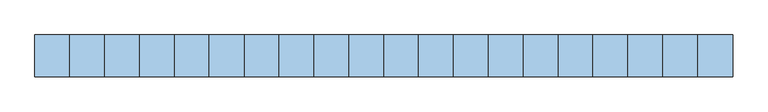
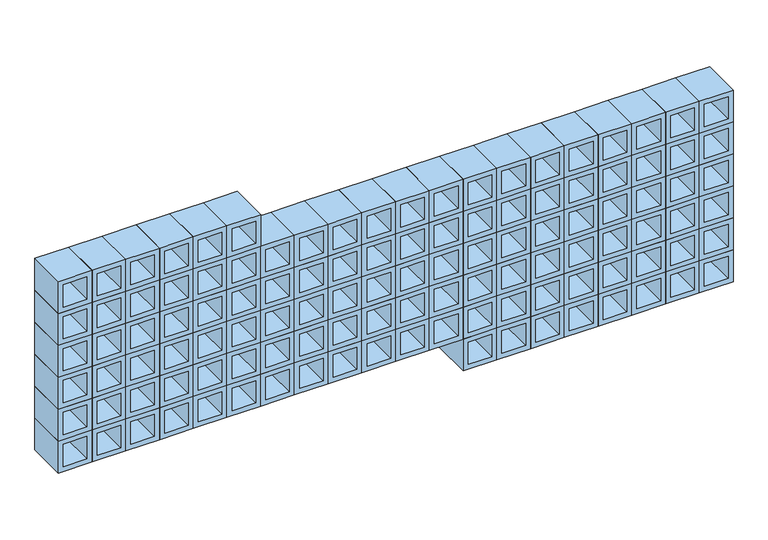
"""IFC4 building model written with IfcOpenShell, lengths in millimetres: window geometry, Concrete_Cobog_Hollow_block_14694 : Cobogó 2,00 x 1,60 m."""

from ifc_helpers import new_model, si_unit, frame, origin, place, context, project, spatial, polyline, outline, extrude, source, transform, mapped, element, save


def window_a88563cc(model_context):
    return source(origin(), model_context, "Body", "SweptSolid", [
        extrude(outline(polyline([(1700.0, -400.0), (1800.0, -400.0), (1800.0, -500.0), (1700.0, -500.0), (1700.0, -400.0)]), holes=[polyline([(1785.0, -485.0), (1785.0, -415.0), (1715.0, -415.0), (1715.0, -485.0), (1785.0, -485.0)])]), frame((0.0, -60.0, 0.0), z_axis=(0.0, 1.0, 0.0), x_axis=(0.0, 0.0, 1.0)), (0.0, 0.0, 1.0), 120.0),
        extrude(outline(polyline([(1700.0, -500.0), (1800.0, -500.0), (1800.0, -600.0), (1700.0, -600.0), (1700.0, -500.0)]), holes=[polyline([(1785.0, -585.0), (1785.0, -515.0), (1715.0, -515.0), (1715.0, -585.0), (1785.0, -585.0)])]), frame((0.0, -60.0, 0.0), z_axis=(0.0, 1.0, 0.0), x_axis=(0.0, 0.0, 1.0)), (0.0, 0.0, 1.0), 120.0),
        extrude(outline(polyline([(1700.0, -600.0), (1800.0, -600.0), (1800.0, -700.0), (1700.0, -700.0), (1700.0, -600.0)]), holes=[polyline([(1785.0, -685.0), (1785.0, -615.0), (1715.0, -615.0), (1715.0, -685.0), (1785.0, -685.0)])]), frame((0.0, -60.0, 0.0), z_axis=(0.0, 1.0, 0.0), x_axis=(0.0, 0.0, 1.0)), (0.0, 0.0, 1.0), 120.0),
        extrude(outline(polyline([(1700.0, -700.0), (1800.0, -700.0), (1800.0, -800.0), (1700.0, -800.0), (1700.0, -700.0)]), holes=[polyline([(1785.0, -785.0), (1785.0, -715.0), (1715.0, -715.0), (1715.0, -785.0), (1785.0, -785.0)])]), frame((0.0, -60.0, 0.0), z_axis=(0.0, 1.0, 0.0), x_axis=(0.0, 0.0, 1.0)), (0.0, 0.0, 1.0), 120.0),
        extrude(outline(polyline([(1700.0, -800.0), (1800.0, -800.0), (1800.0, -900.0), (1700.0, -900.0), (1700.0, -800.0)]), holes=[polyline([(1785.0, -885.0), (1785.0, -815.0), (1715.0, -815.0), (1715.0, -885.0), (1785.0, -885.0)])]), frame((0.0, -60.0, 0.0), z_axis=(0.0, 1.0, 0.0), x_axis=(0.0, 0.0, 1.0)), (0.0, 0.0, 1.0), 120.0),
        extrude(outline(polyline([(1700.0, -900.0), (1800.0, -900.0), (1800.0, -1000.0), (1700.0, -1000.0), (1700.0, -900.0)]), holes=[polyline([(1785.0, -985.0), (1785.0, -915.0), (1715.0, -915.0), (1715.0, -985.0), (1785.0, -985.0)])]), frame((0.0, -60.0, 0.0), z_axis=(0.0, 1.0, 0.0), x_axis=(0.0, 0.0, 1.0)), (0.0, 0.0, 1.0), 120.0),
        extrude(outline(polyline([(1600.0, 1000.0), (1700.0, 1000.0), (1700.0, 900.0), (1600.0, 900.0), (1600.0, 1000.0)]), holes=[polyline([(1685.0, 915.0), (1685.0, 985.0), (1615.0, 985.0), (1615.0, 915.0), (1685.0, 915.0)])]), frame((0.0, -60.0, 0.0), z_axis=(0.0, 1.0, 0.0), x_axis=(0.0, 0.0, 1.0)), (0.0, 0.0, 1.0), 120.0),
        extrude(outline(polyline([(1600.0, 900.0), (1700.0, 900.0), (1700.0, 800.0), (1600.0, 800.0), (1600.0, 900.0)]), holes=[polyline([(1685.0, 815.0), (1685.0, 885.0), (1615.0, 885.0), (1615.0, 815.0), (1685.0, 815.0)])]), frame((0.0, -60.0, 0.0), z_axis=(0.0, 1.0, 0.0), x_axis=(0.0, 0.0, 1.0)), (0.0, 0.0, 1.0), 120.0),
        extrude(outline(polyline([(1600.0, 800.0), (1700.0, 800.0), (1700.0, 700.0), (1600.0, 700.0), (1600.0, 800.0)]), holes=[polyline([(1685.0, 715.0), (1685.0, 785.0), (1615.0, 785.0), (1615.0, 715.0), (1685.0, 715.0)])]), frame((0.0, -60.0, 0.0), z_axis=(0.0, 1.0, 0.0), x_axis=(0.0, 0.0, 1.0)), (0.0, 0.0, 1.0), 120.0),
        extrude(outline(polyline([(1600.0, 700.0), (1700.0, 700.0), (1700.0, 600.0), (1600.0, 600.0), (1600.0, 700.0)]), holes=[polyline([(1685.0, 615.0), (1685.0, 685.0), (1615.0, 685.0), (1615.0, 615.0), (1685.0, 615.0)])]), frame((0.0, -60.0, 0.0), z_axis=(0.0, 1.0, 0.0), x_axis=(0.0, 0.0, 1.0)), (0.0, 0.0, 1.0), 120.0),
        extrude(outline(polyline([(1600.0, 600.0), (1700.0, 600.0), (1700.0, 500.0), (1600.0, 500.0), (1600.0, 600.0)]), holes=[polyline([(1685.0, 515.0), (1685.0, 585.0), (1615.0, 585.0), (1615.0, 515.0), (1685.0, 515.0)])]), frame((0.0, -60.0, 0.0), z_axis=(0.0, 1.0, 0.0), x_axis=(0.0, 0.0, 1.0)), (0.0, 0.0, 1.0), 120.0),
        extrude(outline(polyline([(1600.0, 500.0), (1700.0, 500.0), (1700.0, 400.0), (1600.0, 400.0), (1600.0, 500.0)]), holes=[polyline([(1685.0, 415.0), (1685.0, 485.0), (1615.0, 485.0), (1615.0, 415.0), (1685.0, 415.0)])]), frame((0.0, -60.0, 0.0), z_axis=(0.0, 1.0, 0.0), x_axis=(0.0, 0.0, 1.0)), (0.0, 0.0, 1.0), 120.0),
        extrude(outline(polyline([(1600.0, 400.0), (1700.0, 400.0), (1700.0, 300.0), (1600.0, 300.0), (1600.0, 400.0)]), holes=[polyline([(1685.0, 315.0), (1685.0, 385.0), (1615.0, 385.0), (1615.0, 315.0), (1685.0, 315.0)])]), frame((0.0, -60.0, 0.0), z_axis=(0.0, 1.0, 0.0), x_axis=(0.0, 0.0, 1.0)), (0.0, 0.0, 1.0), 120.0),
        extrude(outline(polyline([(1600.0, 300.0), (1700.0, 300.0), (1700.0, 200.0), (1600.0, 200.0), (1600.0, 300.0)]), holes=[polyline([(1685.0, 215.0), (1685.0, 285.0), (1615.0, 285.0), (1615.0, 215.0), (1685.0, 215.0)])]), frame((0.0, -60.0, 0.0), z_axis=(0.0, 1.0, 0.0), x_axis=(0.0, 0.0, 1.0)), (0.0, 0.0, 1.0), 120.0),
        extrude(outline(polyline([(1600.0, 200.0), (1700.0, 200.0), (1700.0, 100.0), (1600.0, 100.0), (1600.0, 200.0)]), holes=[polyline([(1685.0, 115.0), (1685.0, 185.0), (1615.0, 185.0), (1615.0, 115.0), (1685.0, 115.0)])]), frame((0.0, -60.0, 0.0), z_axis=(0.0, 1.0, 0.0), x_axis=(0.0, 0.0, 1.0)), (0.0, 0.0, 1.0), 120.0),
        extrude(outline(polyline([(1600.0, 100.0), (1700.0, 100.0), (1700.0, 0.0), (1600.0, 0.0), (1600.0, 100.0)]), holes=[polyline([(1685.0, 15.0), (1685.0, 85.0), (1615.0, 85.0), (1615.0, 15.0), (1685.0, 15.0)])]), frame((0.0, -60.0, 0.0), z_axis=(0.0, 1.0, 0.0), x_axis=(0.0, 0.0, 1.0)), (0.0, 0.0, 1.0), 120.0),
        extrude(outline(polyline([(1600.0, 0.0), (1700.0, 0.0), (1700.0, -100.0), (1600.0, -100.0), (1600.0, 0.0)]), holes=[polyline([(1685.0, -85.0), (1685.0, -15.0), (1615.0, -15.0), (1615.0, -85.0), (1685.0, -85.0)])]), frame((0.0, -60.0, 0.0), z_axis=(0.0, 1.0, 0.0), x_axis=(0.0, 0.0, 1.0)), (0.0, 0.0, 1.0), 120.0),
        extrude(outline(polyline([(1600.0, -100.0), (1700.0, -100.0), (1700.0, -200.0), (1600.0, -200.0), (1600.0, -100.0)]), holes=[polyline([(1685.0, -185.0), (1685.0, -115.0), (1615.0, -115.0), (1615.0, -185.0), (1685.0, -185.0)])]), frame((0.0, -60.0, 0.0), z_axis=(0.0, 1.0, 0.0), x_axis=(0.0, 0.0, 1.0)), (0.0, 0.0, 1.0), 120.0),
        extrude(outline(polyline([(1600.0, -200.0), (1700.0, -200.0), (1700.0, -300.0), (1600.0, -300.0), (1600.0, -200.0)]), holes=[polyline([(1685.0, -285.0), (1685.0, -215.0), (1615.0, -215.0), (1615.0, -285.0), (1685.0, -285.0)])]), frame((0.0, -60.0, 0.0), z_axis=(0.0, 1.0, 0.0), x_axis=(0.0, 0.0, 1.0)), (0.0, 0.0, 1.0), 120.0),
        extrude(outline(polyline([(1600.0, -300.0), (1700.0, -300.0), (1700.0, -400.0), (1600.0, -400.0), (1600.0, -300.0)]), holes=[polyline([(1685.0, -385.0), (1685.0, -315.0), (1615.0, -315.0), (1615.0, -385.0), (1685.0, -385.0)])]), frame((0.0, -60.0, 0.0), z_axis=(0.0, 1.0, 0.0), x_axis=(0.0, 0.0, 1.0)), (0.0, 0.0, 1.0), 120.0),
        extrude(outline(polyline([(1600.0, -400.0), (1700.0, -400.0), (1700.0, -500.0), (1600.0, -500.0), (1600.0, -400.0)]), holes=[polyline([(1685.0, -485.0), (1685.0, -415.0), (1615.0, -415.0), (1615.0, -485.0), (1685.0, -485.0)])]), frame((0.0, -60.0, 0.0), z_axis=(0.0, 1.0, 0.0), x_axis=(0.0, 0.0, 1.0)), (0.0, 0.0, 1.0), 120.0),
        extrude(outline(polyline([(1600.0, -500.0), (1700.0, -500.0), (1700.0, -600.0), (1600.0, -600.0), (1600.0, -500.0)]), holes=[polyline([(1685.0, -585.0), (1685.0, -515.0), (1615.0, -515.0), (1615.0, -585.0), (1685.0, -585.0)])]), frame((0.0, -60.0, 0.0), z_axis=(0.0, 1.0, 0.0), x_axis=(0.0, 0.0, 1.0)), (0.0, 0.0, 1.0), 120.0),
        extrude(outline(polyline([(1600.0, -600.0), (1700.0, -600.0), (1700.0, -700.0), (1600.0, -700.0), (1600.0, -600.0)]), holes=[polyline([(1685.0, -685.0), (1685.0, -615.0), (1615.0, -615.0), (1615.0, -685.0), (1685.0, -685.0)])]), frame((0.0, -60.0, 0.0), z_axis=(0.0, 1.0, 0.0), x_axis=(0.0, 0.0, 1.0)), (0.0, 0.0, 1.0), 120.0),
        extrude(outline(polyline([(1600.0, -700.0), (1700.0, -700.0), (1700.0, -800.0), (1600.0, -800.0), (1600.0, -700.0)]), holes=[polyline([(1685.0, -785.0), (1685.0, -715.0), (1615.0, -715.0), (1615.0, -785.0), (1685.0, -785.0)])]), frame((0.0, -60.0, 0.0), z_axis=(0.0, 1.0, 0.0), x_axis=(0.0, 0.0, 1.0)), (0.0, 0.0, 1.0), 120.0),
        extrude(outline(polyline([(1600.0, -800.0), (1700.0, -800.0), (1700.0, -900.0), (1600.0, -900.0), (1600.0, -800.0)]), holes=[polyline([(1685.0, -885.0), (1685.0, -815.0), (1615.0, -815.0), (1615.0, -885.0), (1685.0, -885.0)])]), frame((0.0, -60.0, 0.0), z_axis=(0.0, 1.0, 0.0), x_axis=(0.0, 0.0, 1.0)), (0.0, 0.0, 1.0), 120.0),
        extrude(outline(polyline([(1600.0, -900.0), (1700.0, -900.0), (1700.0, -1000.0), (1600.0, -1000.0), (1600.0, -900.0)]), holes=[polyline([(1685.0, -985.0), (1685.0, -915.0), (1615.0, -915.0), (1615.0, -985.0), (1685.0, -985.0)])]), frame((0.0, -60.0, 0.0), z_axis=(0.0, 1.0, 0.0), x_axis=(0.0, 0.0, 1.0)), (0.0, 0.0, 1.0), 120.0),
        extrude(outline(polyline([(1500.0, 1000.0), (1600.0, 1000.0), (1600.0, 900.0), (1500.0, 900.0), (1500.0, 1000.0)]), holes=[polyline([(1585.0, 915.0), (1585.0, 985.0), (1515.0, 985.0), (1515.0, 915.0), (1585.0, 915.0)])]), frame((0.0, -60.0, 0.0), z_axis=(0.0, 1.0, 0.0), x_axis=(0.0, 0.0, 1.0)), (0.0, 0.0, 1.0), 120.0),
        extrude(outline(polyline([(1500.0, 900.0), (1600.0, 900.0), (1600.0, 800.0), (1500.0, 800.0), (1500.0, 900.0)]), holes=[polyline([(1585.0, 815.0), (1585.0, 885.0), (1515.0, 885.0), (1515.0, 815.0), (1585.0, 815.0)])]), frame((0.0, -60.0, 0.0), z_axis=(0.0, 1.0, 0.0), x_axis=(0.0, 0.0, 1.0)), (0.0, 0.0, 1.0), 120.0),
        extrude(outline(polyline([(1500.0, 800.0), (1600.0, 800.0), (1600.0, 700.0), (1500.0, 700.0), (1500.0, 800.0)]), holes=[polyline([(1585.0, 715.0), (1585.0, 785.0), (1515.0, 785.0), (1515.0, 715.0), (1585.0, 715.0)])]), frame((0.0, -60.0, 0.0), z_axis=(0.0, 1.0, 0.0), x_axis=(0.0, 0.0, 1.0)), (0.0, 0.0, 1.0), 120.0),
        extrude(outline(polyline([(1500.0, 700.0), (1600.0, 700.0), (1600.0, 600.0), (1500.0, 600.0), (1500.0, 700.0)]), holes=[polyline([(1585.0, 615.0), (1585.0, 685.0), (1515.0, 685.0), (1515.0, 615.0), (1585.0, 615.0)])]), frame((0.0, -60.0, 0.0), z_axis=(0.0, 1.0, 0.0), x_axis=(0.0, 0.0, 1.0)), (0.0, 0.0, 1.0), 120.0),
        extrude(outline(polyline([(1500.0, 600.0), (1600.0, 600.0), (1600.0, 500.0), (1500.0, 500.0), (1500.0, 600.0)]), holes=[polyline([(1585.0, 515.0), (1585.0, 585.0), (1515.0, 585.0), (1515.0, 515.0), (1585.0, 515.0)])]), frame((0.0, -60.0, 0.0), z_axis=(0.0, 1.0, 0.0), x_axis=(0.0, 0.0, 1.0)), (0.0, 0.0, 1.0), 120.0),
        extrude(outline(polyline([(1500.0, 500.0), (1600.0, 500.0), (1600.0, 400.0), (1500.0, 400.0), (1500.0, 500.0)]), holes=[polyline([(1585.0, 415.0), (1585.0, 485.0), (1515.0, 485.0), (1515.0, 415.0), (1585.0, 415.0)])]), frame((0.0, -60.0, 0.0), z_axis=(0.0, 1.0, 0.0), x_axis=(0.0, 0.0, 1.0)), (0.0, 0.0, 1.0), 120.0),
        extrude(outline(polyline([(1500.0, 400.0), (1600.0, 400.0), (1600.0, 300.0), (1500.0, 300.0), (1500.0, 400.0)]), holes=[polyline([(1585.0, 315.0), (1585.0, 385.0), (1515.0, 385.0), (1515.0, 315.0), (1585.0, 315.0)])]), frame((0.0, -60.0, 0.0), z_axis=(0.0, 1.0, 0.0), x_axis=(0.0, 0.0, 1.0)), (0.0, 0.0, 1.0), 120.0),
        extrude(outline(polyline([(1500.0, 300.0), (1600.0, 300.0), (1600.0, 200.0), (1500.0, 200.0), (1500.0, 300.0)]), holes=[polyline([(1585.0, 215.0), (1585.0, 285.0), (1515.0, 285.0), (1515.0, 215.0), (1585.0, 215.0)])]), frame((0.0, -60.0, 0.0), z_axis=(0.0, 1.0, 0.0), x_axis=(0.0, 0.0, 1.0)), (0.0, 0.0, 1.0), 120.0),
        extrude(outline(polyline([(1500.0, 200.0), (1600.0, 200.0), (1600.0, 100.0), (1500.0, 100.0), (1500.0, 200.0)]), holes=[polyline([(1585.0, 115.0), (1585.0, 185.0), (1515.0, 185.0), (1515.0, 115.0), (1585.0, 115.0)])]), frame((0.0, -60.0, 0.0), z_axis=(0.0, 1.0, 0.0), x_axis=(0.0, 0.0, 1.0)), (0.0, 0.0, 1.0), 120.0),
        extrude(outline(polyline([(1500.0, 100.0), (1600.0, 100.0), (1600.0, 0.0), (1500.0, 0.0), (1500.0, 100.0)]), holes=[polyline([(1585.0, 15.0), (1585.0, 85.0), (1515.0, 85.0), (1515.0, 15.0), (1585.0, 15.0)])]), frame((0.0, -60.0, 0.0), z_axis=(0.0, 1.0, 0.0), x_axis=(0.0, 0.0, 1.0)), (0.0, 0.0, 1.0), 120.0),
        extrude(outline(polyline([(1500.0, 0.0), (1600.0, 0.0), (1600.0, -100.0), (1500.0, -100.0), (1500.0, 0.0)]), holes=[polyline([(1585.0, -85.0), (1585.0, -15.0), (1515.0, -15.0), (1515.0, -85.0), (1585.0, -85.0)])]), frame((0.0, -60.0, 0.0), z_axis=(0.0, 1.0, 0.0), x_axis=(0.0, 0.0, 1.0)), (0.0, 0.0, 1.0), 120.0),
        extrude(outline(polyline([(1500.0, -100.0), (1600.0, -100.0), (1600.0, -200.0), (1500.0, -200.0), (1500.0, -100.0)]), holes=[polyline([(1585.0, -185.0), (1585.0, -115.0), (1515.0, -115.0), (1515.0, -185.0), (1585.0, -185.0)])]), frame((0.0, -60.0, 0.0), z_axis=(0.0, 1.0, 0.0), x_axis=(0.0, 0.0, 1.0)), (0.0, 0.0, 1.0), 120.0),
        extrude(outline(polyline([(1500.0, -200.0), (1600.0, -200.0), (1600.0, -300.0), (1500.0, -300.0), (1500.0, -200.0)]), holes=[polyline([(1585.0, -285.0), (1585.0, -215.0), (1515.0, -215.0), (1515.0, -285.0), (1585.0, -285.0)])]), frame((0.0, -60.0, 0.0), z_axis=(0.0, 1.0, 0.0), x_axis=(0.0, 0.0, 1.0)), (0.0, 0.0, 1.0), 120.0),
        extrude(outline(polyline([(1500.0, -300.0), (1600.0, -300.0), (1600.0, -400.0), (1500.0, -400.0), (1500.0, -300.0)]), holes=[polyline([(1585.0, -385.0), (1585.0, -315.0), (1515.0, -315.0), (1515.0, -385.0), (1585.0, -385.0)])]), frame((0.0, -60.0, 0.0), z_axis=(0.0, 1.0, 0.0), x_axis=(0.0, 0.0, 1.0)), (0.0, 0.0, 1.0), 120.0),
        extrude(outline(polyline([(1500.0, -400.0), (1600.0, -400.0), (1600.0, -500.0), (1500.0, -500.0), (1500.0, -400.0)]), holes=[polyline([(1585.0, -485.0), (1585.0, -415.0), (1515.0, -415.0), (1515.0, -485.0), (1585.0, -485.0)])]), frame((0.0, -60.0, 0.0), z_axis=(0.0, 1.0, 0.0), x_axis=(0.0, 0.0, 1.0)), (0.0, 0.0, 1.0), 120.0),
        extrude(outline(polyline([(1500.0, -500.0), (1600.0, -500.0), (1600.0, -600.0), (1500.0, -600.0), (1500.0, -500.0)]), holes=[polyline([(1585.0, -585.0), (1585.0, -515.0), (1515.0, -515.0), (1515.0, -585.0), (1585.0, -585.0)])]), frame((0.0, -60.0, 0.0), z_axis=(0.0, 1.0, 0.0), x_axis=(0.0, 0.0, 1.0)), (0.0, 0.0, 1.0), 120.0),
        extrude(outline(polyline([(1500.0, -600.0), (1600.0, -600.0), (1600.0, -700.0), (1500.0, -700.0), (1500.0, -600.0)]), holes=[polyline([(1585.0, -685.0), (1585.0, -615.0), (1515.0, -615.0), (1515.0, -685.0), (1585.0, -685.0)])]), frame((0.0, -60.0, 0.0), z_axis=(0.0, 1.0, 0.0), x_axis=(0.0, 0.0, 1.0)), (0.0, 0.0, 1.0), 120.0),
        extrude(outline(polyline([(1500.0, -700.0), (1600.0, -700.0), (1600.0, -800.0), (1500.0, -800.0), (1500.0, -700.0)]), holes=[polyline([(1585.0, -785.0), (1585.0, -715.0), (1515.0, -715.0), (1515.0, -785.0), (1585.0, -785.0)])]), frame((0.0, -60.0, 0.0), z_axis=(0.0, 1.0, 0.0), x_axis=(0.0, 0.0, 1.0)), (0.0, 0.0, 1.0), 120.0),
        extrude(outline(polyline([(1500.0, -800.0), (1600.0, -800.0), (1600.0, -900.0), (1500.0, -900.0), (1500.0, -800.0)]), holes=[polyline([(1585.0, -885.0), (1585.0, -815.0), (1515.0, -815.0), (1515.0, -885.0), (1585.0, -885.0)])]), frame((0.0, -60.0, 0.0), z_axis=(0.0, 1.0, 0.0), x_axis=(0.0, 0.0, 1.0)), (0.0, 0.0, 1.0), 120.0),
        extrude(outline(polyline([(1500.0, -900.0), (1600.0, -900.0), (1600.0, -1000.0), (1500.0, -1000.0), (1500.0, -900.0)]), holes=[polyline([(1585.0, -985.0), (1585.0, -915.0), (1515.0, -915.0), (1515.0, -985.0), (1585.0, -985.0)])]), frame((0.0, -60.0, 0.0), z_axis=(0.0, 1.0, 0.0), x_axis=(0.0, 0.0, 1.0)), (0.0, 0.0, 1.0), 120.0),
        extrude(outline(polyline([(1400.0, 1000.0), (1500.0, 1000.0), (1500.0, 900.0), (1400.0, 900.0), (1400.0, 1000.0)]), holes=[polyline([(1485.0, 915.0), (1485.0, 985.0), (1415.0, 985.0), (1415.0, 915.0), (1485.0, 915.0)])]), frame((0.0, -60.0, 0.0), z_axis=(0.0, 1.0, 0.0), x_axis=(0.0, 0.0, 1.0)), (0.0, 0.0, 1.0), 120.0),
        extrude(outline(polyline([(1400.0, 900.0), (1500.0, 900.0), (1500.0, 800.0), (1400.0, 800.0), (1400.0, 900.0)]), holes=[polyline([(1485.0, 815.0), (1485.0, 885.0), (1415.0, 885.0), (1415.0, 815.0), (1485.0, 815.0)])]), frame((0.0, -60.0, 0.0), z_axis=(0.0, 1.0, 0.0), x_axis=(0.0, 0.0, 1.0)), (0.0, 0.0, 1.0), 120.0),
        extrude(outline(polyline([(1400.0, 800.0), (1500.0, 800.0), (1500.0, 700.0), (1400.0, 700.0), (1400.0, 800.0)]), holes=[polyline([(1485.0, 715.0), (1485.0, 785.0), (1415.0, 785.0), (1415.0, 715.0), (1485.0, 715.0)])]), frame((0.0, -60.0, 0.0), z_axis=(0.0, 1.0, 0.0), x_axis=(0.0, 0.0, 1.0)), (0.0, 0.0, 1.0), 120.0),
        extrude(outline(polyline([(1400.0, 700.0), (1500.0, 700.0), (1500.0, 600.0), (1400.0, 600.0), (1400.0, 700.0)]), holes=[polyline([(1485.0, 615.0), (1485.0, 685.0), (1415.0, 685.0), (1415.0, 615.0), (1485.0, 615.0)])]), frame((0.0, -60.0, 0.0), z_axis=(0.0, 1.0, 0.0), x_axis=(0.0, 0.0, 1.0)), (0.0, 0.0, 1.0), 120.0),
        extrude(outline(polyline([(1400.0, 600.0), (1500.0, 600.0), (1500.0, 500.0), (1400.0, 500.0), (1400.0, 600.0)]), holes=[polyline([(1485.0, 515.0), (1485.0, 585.0), (1415.0, 585.0), (1415.0, 515.0), (1485.0, 515.0)])]), frame((0.0, -60.0, 0.0), z_axis=(0.0, 1.0, 0.0), x_axis=(0.0, 0.0, 1.0)), (0.0, 0.0, 1.0), 120.0),
        extrude(outline(polyline([(1400.0, 500.0), (1500.0, 500.0), (1500.0, 400.0), (1400.0, 400.0), (1400.0, 500.0)]), holes=[polyline([(1485.0, 415.0), (1485.0, 485.0), (1415.0, 485.0), (1415.0, 415.0), (1485.0, 415.0)])]), frame((0.0, -60.0, 0.0), z_axis=(0.0, 1.0, 0.0), x_axis=(0.0, 0.0, 1.0)), (0.0, 0.0, 1.0), 120.0),
        extrude(outline(polyline([(1400.0, 400.0), (1500.0, 400.0), (1500.0, 300.0), (1400.0, 300.0), (1400.0, 400.0)]), holes=[polyline([(1485.0, 315.0), (1485.0, 385.0), (1415.0, 385.0), (1415.0, 315.0), (1485.0, 315.0)])]), frame((0.0, -60.0, 0.0), z_axis=(0.0, 1.0, 0.0), x_axis=(0.0, 0.0, 1.0)), (0.0, 0.0, 1.0), 120.0),
        extrude(outline(polyline([(1400.0, 300.0), (1500.0, 300.0), (1500.0, 200.0), (1400.0, 200.0), (1400.0, 300.0)]), holes=[polyline([(1485.0, 215.0), (1485.0, 285.0), (1415.0, 285.0), (1415.0, 215.0), (1485.0, 215.0)])]), frame((0.0, -60.0, 0.0), z_axis=(0.0, 1.0, 0.0), x_axis=(0.0, 0.0, 1.0)), (0.0, 0.0, 1.0), 120.0),
        extrude(outline(polyline([(1400.0, 200.0), (1500.0, 200.0), (1500.0, 100.0), (1400.0, 100.0), (1400.0, 200.0)]), holes=[polyline([(1485.0, 115.0), (1485.0, 185.0), (1415.0, 185.0), (1415.0, 115.0), (1485.0, 115.0)])]), frame((0.0, -60.0, 0.0), z_axis=(0.0, 1.0, 0.0), x_axis=(0.0, 0.0, 1.0)), (0.0, 0.0, 1.0), 120.0),
        extrude(outline(polyline([(1400.0, 100.0), (1500.0, 100.0), (1500.0, 0.0), (1400.0, 0.0), (1400.0, 100.0)]), holes=[polyline([(1485.0, 15.0), (1485.0, 85.0), (1415.0, 85.0), (1415.0, 15.0), (1485.0, 15.0)])]), frame((0.0, -60.0, 0.0), z_axis=(0.0, 1.0, 0.0), x_axis=(0.0, 0.0, 1.0)), (0.0, 0.0, 1.0), 120.0),
        extrude(outline(polyline([(1400.0, 0.0), (1500.0, 0.0), (1500.0, -100.0), (1400.0, -100.0), (1400.0, 0.0)]), holes=[polyline([(1485.0, -85.0), (1485.0, -15.0), (1415.0, -15.0), (1415.0, -85.0), (1485.0, -85.0)])]), frame((0.0, -60.0, 0.0), z_axis=(0.0, 1.0, 0.0), x_axis=(0.0, 0.0, 1.0)), (0.0, 0.0, 1.0), 120.0),
        extrude(outline(polyline([(1400.0, -100.0), (1500.0, -100.0), (1500.0, -200.0), (1400.0, -200.0), (1400.0, -100.0)]), holes=[polyline([(1485.0, -185.0), (1485.0, -115.0), (1415.0, -115.0), (1415.0, -185.0), (1485.0, -185.0)])]), frame((0.0, -60.0, 0.0), z_axis=(0.0, 1.0, 0.0), x_axis=(0.0, 0.0, 1.0)), (0.0, 0.0, 1.0), 120.0),
        extrude(outline(polyline([(1400.0, -200.0), (1500.0, -200.0), (1500.0, -300.0), (1400.0, -300.0), (1400.0, -200.0)]), holes=[polyline([(1485.0, -285.0), (1485.0, -215.0), (1415.0, -215.0), (1415.0, -285.0), (1485.0, -285.0)])]), frame((0.0, -60.0, 0.0), z_axis=(0.0, 1.0, 0.0), x_axis=(0.0, 0.0, 1.0)), (0.0, 0.0, 1.0), 120.0),
        extrude(outline(polyline([(1400.0, -300.0), (1500.0, -300.0), (1500.0, -400.0), (1400.0, -400.0), (1400.0, -300.0)]), holes=[polyline([(1485.0, -385.0), (1485.0, -315.0), (1415.0, -315.0), (1415.0, -385.0), (1485.0, -385.0)])]), frame((0.0, -60.0, 0.0), z_axis=(0.0, 1.0, 0.0), x_axis=(0.0, 0.0, 1.0)), (0.0, 0.0, 1.0), 120.0),
        extrude(outline(polyline([(1400.0, -400.0), (1500.0, -400.0), (1500.0, -500.0), (1400.0, -500.0), (1400.0, -400.0)]), holes=[polyline([(1485.0, -485.0), (1485.0, -415.0), (1415.0, -415.0), (1415.0, -485.0), (1485.0, -485.0)])]), frame((0.0, -60.0, 0.0), z_axis=(0.0, 1.0, 0.0), x_axis=(0.0, 0.0, 1.0)), (0.0, 0.0, 1.0), 120.0),
        extrude(outline(polyline([(1400.0, -500.0), (1500.0, -500.0), (1500.0, -600.0), (1400.0, -600.0), (1400.0, -500.0)]), holes=[polyline([(1485.0, -585.0), (1485.0, -515.0), (1415.0, -515.0), (1415.0, -585.0), (1485.0, -585.0)])]), frame((0.0, -60.0, 0.0), z_axis=(0.0, 1.0, 0.0), x_axis=(0.0, 0.0, 1.0)), (0.0, 0.0, 1.0), 120.0),
        extrude(outline(polyline([(1400.0, -600.0), (1500.0, -600.0), (1500.0, -700.0), (1400.0, -700.0), (1400.0, -600.0)]), holes=[polyline([(1485.0, -685.0), (1485.0, -615.0), (1415.0, -615.0), (1415.0, -685.0), (1485.0, -685.0)])]), frame((0.0, -60.0, 0.0), z_axis=(0.0, 1.0, 0.0), x_axis=(0.0, 0.0, 1.0)), (0.0, 0.0, 1.0), 120.0),
        extrude(outline(polyline([(1400.0, -700.0), (1500.0, -700.0), (1500.0, -800.0), (1400.0, -800.0), (1400.0, -700.0)]), holes=[polyline([(1485.0, -785.0), (1485.0, -715.0), (1415.0, -715.0), (1415.0, -785.0), (1485.0, -785.0)])]), frame((0.0, -60.0, 0.0), z_axis=(0.0, 1.0, 0.0), x_axis=(0.0, 0.0, 1.0)), (0.0, 0.0, 1.0), 120.0),
        extrude(outline(polyline([(1400.0, -800.0), (1500.0, -800.0), (1500.0, -900.0), (1400.0, -900.0), (1400.0, -800.0)]), holes=[polyline([(1485.0, -885.0), (1485.0, -815.0), (1415.0, -815.0), (1415.0, -885.0), (1485.0, -885.0)])]), frame((0.0, -60.0, 0.0), z_axis=(0.0, 1.0, 0.0), x_axis=(0.0, 0.0, 1.0)), (0.0, 0.0, 1.0), 120.0),
        extrude(outline(polyline([(1400.0, -900.0), (1500.0, -900.0), (1500.0, -1000.0), (1400.0, -1000.0), (1400.0, -900.0)]), holes=[polyline([(1485.0, -985.0), (1485.0, -915.0), (1415.0, -915.0), (1415.0, -985.0), (1485.0, -985.0)])]), frame((0.0, -60.0, 0.0), z_axis=(0.0, 1.0, 0.0), x_axis=(0.0, 0.0, 1.0)), (0.0, 0.0, 1.0), 120.0),
        extrude(outline(polyline([(1300.0, 1000.0), (1400.0, 1000.0), (1400.0, 900.0), (1300.0, 900.0), (1300.0, 1000.0)]), holes=[polyline([(1385.0, 915.0), (1385.0, 985.0), (1315.0, 985.0), (1315.0, 915.0), (1385.0, 915.0)])]), frame((0.0, -60.0, 0.0), z_axis=(0.0, 1.0, 0.0), x_axis=(0.0, 0.0, 1.0)), (0.0, 0.0, 1.0), 120.0),
        extrude(outline(polyline([(1300.0, 900.0), (1400.0, 900.0), (1400.0, 800.0), (1300.0, 800.0), (1300.0, 900.0)]), holes=[polyline([(1385.0, 815.0), (1385.0, 885.0), (1315.0, 885.0), (1315.0, 815.0), (1385.0, 815.0)])]), frame((0.0, -60.0, 0.0), z_axis=(0.0, 1.0, 0.0), x_axis=(0.0, 0.0, 1.0)), (0.0, 0.0, 1.0), 120.0),
        extrude(outline(polyline([(1300.0, 800.0), (1400.0, 800.0), (1400.0, 700.0), (1300.0, 700.0), (1300.0, 800.0)]), holes=[polyline([(1385.0, 715.0), (1385.0, 785.0), (1315.0, 785.0), (1315.0, 715.0), (1385.0, 715.0)])]), frame((0.0, -60.0, 0.0), z_axis=(0.0, 1.0, 0.0), x_axis=(0.0, 0.0, 1.0)), (0.0, 0.0, 1.0), 120.0),
        extrude(outline(polyline([(1300.0, 700.0), (1400.0, 700.0), (1400.0, 600.0), (1300.0, 600.0), (1300.0, 700.0)]), holes=[polyline([(1385.0, 615.0), (1385.0, 685.0), (1315.0, 685.0), (1315.0, 615.0), (1385.0, 615.0)])]), frame((0.0, -60.0, 0.0), z_axis=(0.0, 1.0, 0.0), x_axis=(0.0, 0.0, 1.0)), (0.0, 0.0, 1.0), 120.0),
        extrude(outline(polyline([(1300.0, 600.0), (1400.0, 600.0), (1400.0, 500.0), (1300.0, 500.0), (1300.0, 600.0)]), holes=[polyline([(1385.0, 515.0), (1385.0, 585.0), (1315.0, 585.0), (1315.0, 515.0), (1385.0, 515.0)])]), frame((0.0, -60.0, 0.0), z_axis=(0.0, 1.0, 0.0), x_axis=(0.0, 0.0, 1.0)), (0.0, 0.0, 1.0), 120.0),
        extrude(outline(polyline([(1300.0, 500.0), (1400.0, 500.0), (1400.0, 400.0), (1300.0, 400.0), (1300.0, 500.0)]), holes=[polyline([(1385.0, 415.0), (1385.0, 485.0), (1315.0, 485.0), (1315.0, 415.0), (1385.0, 415.0)])]), frame((0.0, -60.0, 0.0), z_axis=(0.0, 1.0, 0.0), x_axis=(0.0, 0.0, 1.0)), (0.0, 0.0, 1.0), 120.0),
        extrude(outline(polyline([(1300.0, 400.0), (1400.0, 400.0), (1400.0, 300.0), (1300.0, 300.0), (1300.0, 400.0)]), holes=[polyline([(1385.0, 315.0), (1385.0, 385.0), (1315.0, 385.0), (1315.0, 315.0), (1385.0, 315.0)])]), frame((0.0, -60.0, 0.0), z_axis=(0.0, 1.0, 0.0), x_axis=(0.0, 0.0, 1.0)), (0.0, 0.0, 1.0), 120.0),
        extrude(outline(polyline([(1300.0, 300.0), (1400.0, 300.0), (1400.0, 200.0), (1300.0, 200.0), (1300.0, 300.0)]), holes=[polyline([(1385.0, 215.0), (1385.0, 285.0), (1315.0, 285.0), (1315.0, 215.0), (1385.0, 215.0)])]), frame((0.0, -60.0, 0.0), z_axis=(0.0, 1.0, 0.0), x_axis=(0.0, 0.0, 1.0)), (0.0, 0.0, 1.0), 120.0),
        extrude(outline(polyline([(1300.0, 200.0), (1400.0, 200.0), (1400.0, 100.0), (1300.0, 100.0), (1300.0, 200.0)]), holes=[polyline([(1385.0, 115.0), (1385.0, 185.0), (1315.0, 185.0), (1315.0, 115.0), (1385.0, 115.0)])]), frame((0.0, -60.0, 0.0), z_axis=(0.0, 1.0, 0.0), x_axis=(0.0, 0.0, 1.0)), (0.0, 0.0, 1.0), 120.0),
        extrude(outline(polyline([(1300.0, 100.0), (1400.0, 100.0), (1400.0, 0.0), (1300.0, 0.0), (1300.0, 100.0)]), holes=[polyline([(1385.0, 15.0), (1385.0, 85.0), (1315.0, 85.0), (1315.0, 15.0), (1385.0, 15.0)])]), frame((0.0, -60.0, 0.0), z_axis=(0.0, 1.0, 0.0), x_axis=(0.0, 0.0, 1.0)), (0.0, 0.0, 1.0), 120.0),
        extrude(outline(polyline([(1300.0, 0.0), (1400.0, 0.0), (1400.0, -100.0), (1300.0, -100.0), (1300.0, 0.0)]), holes=[polyline([(1385.0, -85.0), (1385.0, -15.0), (1315.0, -15.0), (1315.0, -85.0), (1385.0, -85.0)])]), frame((0.0, -60.0, 0.0), z_axis=(0.0, 1.0, 0.0), x_axis=(0.0, 0.0, 1.0)), (0.0, 0.0, 1.0), 120.0),
        extrude(outline(polyline([(1300.0, -100.0), (1400.0, -100.0), (1400.0, -200.0), (1300.0, -200.0), (1300.0, -100.0)]), holes=[polyline([(1385.0, -185.0), (1385.0, -115.0), (1315.0, -115.0), (1315.0, -185.0), (1385.0, -185.0)])]), frame((0.0, -60.0, 0.0), z_axis=(0.0, 1.0, 0.0), x_axis=(0.0, 0.0, 1.0)), (0.0, 0.0, 1.0), 120.0),
        extrude(outline(polyline([(1300.0, -200.0), (1400.0, -200.0), (1400.0, -300.0), (1300.0, -300.0), (1300.0, -200.0)]), holes=[polyline([(1385.0, -285.0), (1385.0, -215.0), (1315.0, -215.0), (1315.0, -285.0), (1385.0, -285.0)])]), frame((0.0, -60.0, 0.0), z_axis=(0.0, 1.0, 0.0), x_axis=(0.0, 0.0, 1.0)), (0.0, 0.0, 1.0), 120.0),
        extrude(outline(polyline([(1300.0, -300.0), (1400.0, -300.0), (1400.0, -400.0), (1300.0, -400.0), (1300.0, -300.0)]), holes=[polyline([(1385.0, -385.0), (1385.0, -315.0), (1315.0, -315.0), (1315.0, -385.0), (1385.0, -385.0)])]), frame((0.0, -60.0, 0.0), z_axis=(0.0, 1.0, 0.0), x_axis=(0.0, 0.0, 1.0)), (0.0, 0.0, 1.0), 120.0),
        extrude(outline(polyline([(1300.0, -400.0), (1400.0, -400.0), (1400.0, -500.0), (1300.0, -500.0), (1300.0, -400.0)]), holes=[polyline([(1385.0, -485.0), (1385.0, -415.0), (1315.0, -415.0), (1315.0, -485.0), (1385.0, -485.0)])]), frame((0.0, -60.0, 0.0), z_axis=(0.0, 1.0, 0.0), x_axis=(0.0, 0.0, 1.0)), (0.0, 0.0, 1.0), 120.0),
        extrude(outline(polyline([(1300.0, -500.0), (1400.0, -500.0), (1400.0, -600.0), (1300.0, -600.0), (1300.0, -500.0)]), holes=[polyline([(1385.0, -585.0), (1385.0, -515.0), (1315.0, -515.0), (1315.0, -585.0), (1385.0, -585.0)])]), frame((0.0, -60.0, 0.0), z_axis=(0.0, 1.0, 0.0), x_axis=(0.0, 0.0, 1.0)), (0.0, 0.0, 1.0), 120.0),
        extrude(outline(polyline([(1300.0, -600.0), (1400.0, -600.0), (1400.0, -700.0), (1300.0, -700.0), (1300.0, -600.0)]), holes=[polyline([(1385.0, -685.0), (1385.0, -615.0), (1315.0, -615.0), (1315.0, -685.0), (1385.0, -685.0)])]), frame((0.0, -60.0, 0.0), z_axis=(0.0, 1.0, 0.0), x_axis=(0.0, 0.0, 1.0)), (0.0, 0.0, 1.0), 120.0),
        extrude(outline(polyline([(1300.0, -700.0), (1400.0, -700.0), (1400.0, -800.0), (1300.0, -800.0), (1300.0, -700.0)]), holes=[polyline([(1385.0, -785.0), (1385.0, -715.0), (1315.0, -715.0), (1315.0, -785.0), (1385.0, -785.0)])]), frame((0.0, -60.0, 0.0), z_axis=(0.0, 1.0, 0.0), x_axis=(0.0, 0.0, 1.0)), (0.0, 0.0, 1.0), 120.0),
        extrude(outline(polyline([(1300.0, -800.0), (1400.0, -800.0), (1400.0, -900.0), (1300.0, -900.0), (1300.0, -800.0)]), holes=[polyline([(1385.0, -885.0), (1385.0, -815.0), (1315.0, -815.0), (1315.0, -885.0), (1385.0, -885.0)])]), frame((0.0, -60.0, 0.0), z_axis=(0.0, 1.0, 0.0), x_axis=(0.0, 0.0, 1.0)), (0.0, 0.0, 1.0), 120.0),
        extrude(outline(polyline([(1300.0, -900.0), (1400.0, -900.0), (1400.0, -1000.0), (1300.0, -1000.0), (1300.0, -900.0)]), holes=[polyline([(1385.0, -985.0), (1385.0, -915.0), (1315.0, -915.0), (1315.0, -985.0), (1385.0, -985.0)])]), frame((0.0, -60.0, 0.0), z_axis=(0.0, 1.0, 0.0), x_axis=(0.0, 0.0, 1.0)), (0.0, 0.0, 1.0), 120.0),
        extrude(outline(polyline([(1200.0, 1000.0), (1300.0, 1000.0), (1300.0, 900.0), (1200.0, 900.0), (1200.0, 1000.0)]), holes=[polyline([(1285.0, 915.0), (1285.0, 985.0), (1215.0, 985.0), (1215.0, 915.0), (1285.0, 915.0)])]), frame((0.0, -60.0, 0.0), z_axis=(0.0, 1.0, 0.0), x_axis=(0.0, 0.0, 1.0)), (0.0, 0.0, 1.0), 120.0),
        extrude(outline(polyline([(1200.0, 900.0), (1300.0, 900.0), (1300.0, 800.0), (1200.0, 800.0), (1200.0, 900.0)]), holes=[polyline([(1285.0, 815.0), (1285.0, 885.0), (1215.0, 885.0), (1215.0, 815.0), (1285.0, 815.0)])]), frame((0.0, -60.0, 0.0), z_axis=(0.0, 1.0, 0.0), x_axis=(0.0, 0.0, 1.0)), (0.0, 0.0, 1.0), 120.0),
        extrude(outline(polyline([(1200.0, 800.0), (1300.0, 800.0), (1300.0, 700.0), (1200.0, 700.0), (1200.0, 800.0)]), holes=[polyline([(1285.0, 715.0), (1285.0, 785.0), (1215.0, 785.0), (1215.0, 715.0), (1285.0, 715.0)])]), frame((0.0, -60.0, 0.0), z_axis=(0.0, 1.0, 0.0), x_axis=(0.0, 0.0, 1.0)), (0.0, 0.0, 1.0), 120.0),
        extrude(outline(polyline([(1200.0, 700.0), (1300.0, 700.0), (1300.0, 600.0), (1200.0, 600.0), (1200.0, 700.0)]), holes=[polyline([(1285.0, 615.0), (1285.0, 685.0), (1215.0, 685.0), (1215.0, 615.0), (1285.0, 615.0)])]), frame((0.0, -60.0, 0.0), z_axis=(0.0, 1.0, 0.0), x_axis=(0.0, 0.0, 1.0)), (0.0, 0.0, 1.0), 120.0),
        extrude(outline(polyline([(1200.0, 600.0), (1300.0, 600.0), (1300.0, 500.0), (1200.0, 500.0), (1200.0, 600.0)]), holes=[polyline([(1285.0, 515.0), (1285.0, 585.0), (1215.0, 585.0), (1215.0, 515.0), (1285.0, 515.0)])]), frame((0.0, -60.0, 0.0), z_axis=(0.0, 1.0, 0.0), x_axis=(0.0, 0.0, 1.0)), (0.0, 0.0, 1.0), 120.0),
        extrude(outline(polyline([(1200.0, 500.0), (1300.0, 500.0), (1300.0, 400.0), (1200.0, 400.0), (1200.0, 500.0)]), holes=[polyline([(1285.0, 415.0), (1285.0, 485.0), (1215.0, 485.0), (1215.0, 415.0), (1285.0, 415.0)])]), frame((0.0, -60.0, 0.0), z_axis=(0.0, 1.0, 0.0), x_axis=(0.0, 0.0, 1.0)), (0.0, 0.0, 1.0), 120.0),
        extrude(outline(polyline([(1200.0, 400.0), (1300.0, 400.0), (1300.0, 300.0), (1200.0, 300.0), (1200.0, 400.0)]), holes=[polyline([(1285.0, 315.0), (1285.0, 385.0), (1215.0, 385.0), (1215.0, 315.0), (1285.0, 315.0)])]), frame((0.0, -60.0, 0.0), z_axis=(0.0, 1.0, 0.0), x_axis=(0.0, 0.0, 1.0)), (0.0, 0.0, 1.0), 120.0),
        extrude(outline(polyline([(1200.0, 300.0), (1300.0, 300.0), (1300.0, 200.0), (1200.0, 200.0), (1200.0, 300.0)]), holes=[polyline([(1285.0, 215.0), (1285.0, 285.0), (1215.0, 285.0), (1215.0, 215.0), (1285.0, 215.0)])]), frame((0.0, -60.0, 0.0), z_axis=(0.0, 1.0, 0.0), x_axis=(0.0, 0.0, 1.0)), (0.0, 0.0, 1.0), 120.0),
        extrude(outline(polyline([(1200.0, 200.0), (1300.0, 200.0), (1300.0, 100.0), (1200.0, 100.0), (1200.0, 200.0)]), holes=[polyline([(1285.0, 115.0), (1285.0, 185.0), (1215.0, 185.0), (1215.0, 115.0), (1285.0, 115.0)])]), frame((0.0, -60.0, 0.0), z_axis=(0.0, 1.0, 0.0), x_axis=(0.0, 0.0, 1.0)), (0.0, 0.0, 1.0), 120.0),
        extrude(outline(polyline([(1200.0, 100.0), (1300.0, 100.0), (1300.0, 0.0), (1200.0, 0.0), (1200.0, 100.0)]), holes=[polyline([(1285.0, 15.0), (1285.0, 85.0), (1215.0, 85.0), (1215.0, 15.0), (1285.0, 15.0)])]), frame((0.0, -60.0, 0.0), z_axis=(0.0, 1.0, 0.0), x_axis=(0.0, 0.0, 1.0)), (0.0, 0.0, 1.0), 120.0),
        extrude(outline(polyline([(1200.0, 0.0), (1300.0, 0.0), (1300.0, -100.0), (1200.0, -100.0), (1200.0, 0.0)]), holes=[polyline([(1285.0, -85.0), (1285.0, -15.0), (1215.0, -15.0), (1215.0, -85.0), (1285.0, -85.0)])]), frame((0.0, -60.0, 0.0), z_axis=(0.0, 1.0, 0.0), x_axis=(0.0, 0.0, 1.0)), (0.0, 0.0, 1.0), 120.0),
        extrude(outline(polyline([(1200.0, -100.0), (1300.0, -100.0), (1300.0, -200.0), (1200.0, -200.0), (1200.0, -100.0)]), holes=[polyline([(1285.0, -185.0), (1285.0, -115.0), (1215.0, -115.0), (1215.0, -185.0), (1285.0, -185.0)])]), frame((0.0, -60.0, 0.0), z_axis=(0.0, 1.0, 0.0), x_axis=(0.0, 0.0, 1.0)), (0.0, 0.0, 1.0), 120.0),
        extrude(outline(polyline([(1200.0, -200.0), (1300.0, -200.0), (1300.0, -300.0), (1200.0, -300.0), (1200.0, -200.0)]), holes=[polyline([(1285.0, -285.0), (1285.0, -215.0), (1215.0, -215.0), (1215.0, -285.0), (1285.0, -285.0)])]), frame((0.0, -60.0, 0.0), z_axis=(0.0, 1.0, 0.0), x_axis=(0.0, 0.0, 1.0)), (0.0, 0.0, 1.0), 120.0),
        extrude(outline(polyline([(1200.0, -300.0), (1300.0, -300.0), (1300.0, -400.0), (1200.0, -400.0), (1200.0, -300.0)]), holes=[polyline([(1285.0, -385.0), (1285.0, -315.0), (1215.0, -315.0), (1215.0, -385.0), (1285.0, -385.0)])]), frame((0.0, -60.0, 0.0), z_axis=(0.0, 1.0, 0.0), x_axis=(0.0, 0.0, 1.0)), (0.0, 0.0, 1.0), 120.0),
        extrude(outline(polyline([(1200.0, -400.0), (1300.0, -400.0), (1300.0, -500.0), (1200.0, -500.0), (1200.0, -400.0)]), holes=[polyline([(1285.0, -485.0), (1285.0, -415.0), (1215.0, -415.0), (1215.0, -485.0), (1285.0, -485.0)])]), frame((0.0, -60.0, 0.0), z_axis=(0.0, 1.0, 0.0), x_axis=(0.0, 0.0, 1.0)), (0.0, 0.0, 1.0), 120.0),
        extrude(outline(polyline([(1200.0, -500.0), (1300.0, -500.0), (1300.0, -600.0), (1200.0, -600.0), (1200.0, -500.0)]), holes=[polyline([(1285.0, -585.0), (1285.0, -515.0), (1215.0, -515.0), (1215.0, -585.0), (1285.0, -585.0)])]), frame((0.0, -60.0, 0.0), z_axis=(0.0, 1.0, 0.0), x_axis=(0.0, 0.0, 1.0)), (0.0, 0.0, 1.0), 120.0),
        extrude(outline(polyline([(1200.0, -600.0), (1300.0, -600.0), (1300.0, -700.0), (1200.0, -700.0), (1200.0, -600.0)]), holes=[polyline([(1285.0, -685.0), (1285.0, -615.0), (1215.0, -615.0), (1215.0, -685.0), (1285.0, -685.0)])]), frame((0.0, -60.0, 0.0), z_axis=(0.0, 1.0, 0.0), x_axis=(0.0, 0.0, 1.0)), (0.0, 0.0, 1.0), 120.0),
        extrude(outline(polyline([(1200.0, -700.0), (1300.0, -700.0), (1300.0, -800.0), (1200.0, -800.0), (1200.0, -700.0)]), holes=[polyline([(1285.0, -785.0), (1285.0, -715.0), (1215.0, -715.0), (1215.0, -785.0), (1285.0, -785.0)])]), frame((0.0, -60.0, 0.0), z_axis=(0.0, 1.0, 0.0), x_axis=(0.0, 0.0, 1.0)), (0.0, 0.0, 1.0), 120.0),
        extrude(outline(polyline([(1200.0, -800.0), (1300.0, -800.0), (1300.0, -900.0), (1200.0, -900.0), (1200.0, -800.0)]), holes=[polyline([(1285.0, -885.0), (1285.0, -815.0), (1215.0, -815.0), (1215.0, -885.0), (1285.0, -885.0)])]), frame((0.0, -60.0, 0.0), z_axis=(0.0, 1.0, 0.0), x_axis=(0.0, 0.0, 1.0)), (0.0, 0.0, 1.0), 120.0),
        extrude(outline(polyline([(1200.0, -900.0), (1300.0, -900.0), (1300.0, -1000.0), (1200.0, -1000.0), (1200.0, -900.0)]), holes=[polyline([(1285.0, -985.0), (1285.0, -915.0), (1215.0, -915.0), (1215.0, -985.0), (1285.0, -985.0)])]), frame((0.0, -60.0, 0.0), z_axis=(0.0, 1.0, 0.0), x_axis=(0.0, 0.0, 1.0)), (0.0, 0.0, 1.0), 120.0),
        extrude(outline(polyline([(1100.0, 1000.0), (1200.0, 1000.0), (1200.0, 900.0), (1100.0, 900.0), (1100.0, 1000.0)]), holes=[polyline([(1185.0, 915.0), (1185.0, 985.0), (1115.0, 985.0), (1115.0, 915.0), (1185.0, 915.0)])]), frame((0.0, -60.0, 0.0), z_axis=(0.0, 1.0, 0.0), x_axis=(0.0, 0.0, 1.0)), (0.0, 0.0, 1.0), 120.0),
        extrude(outline(polyline([(1100.0, 900.0), (1200.0, 900.0), (1200.0, 800.0), (1100.0, 800.0), (1100.0, 900.0)]), holes=[polyline([(1185.0, 815.0), (1185.0, 885.0), (1115.0, 885.0), (1115.0, 815.0), (1185.0, 815.0)])]), frame((0.0, -60.0, 0.0), z_axis=(0.0, 1.0, 0.0), x_axis=(0.0, 0.0, 1.0)), (0.0, 0.0, 1.0), 120.0),
        extrude(outline(polyline([(1100.0, 800.0), (1200.0, 800.0), (1200.0, 700.0), (1100.0, 700.0), (1100.0, 800.0)]), holes=[polyline([(1185.0, 715.0), (1185.0, 785.0), (1115.0, 785.0), (1115.0, 715.0), (1185.0, 715.0)])]), frame((0.0, -60.0, 0.0), z_axis=(0.0, 1.0, 0.0), x_axis=(0.0, 0.0, 1.0)), (0.0, 0.0, 1.0), 120.0),
        extrude(outline(polyline([(1100.0, 700.0), (1200.0, 700.0), (1200.0, 600.0), (1100.0, 600.0), (1100.0, 700.0)]), holes=[polyline([(1185.0, 615.0), (1185.0, 685.0), (1115.0, 685.0), (1115.0, 615.0), (1185.0, 615.0)])]), frame((0.0, -60.0, 0.0), z_axis=(0.0, 1.0, 0.0), x_axis=(0.0, 0.0, 1.0)), (0.0, 0.0, 1.0), 120.0),
        extrude(outline(polyline([(1100.0, 600.0), (1200.0, 600.0), (1200.0, 500.0), (1100.0, 500.0), (1100.0, 600.0)]), holes=[polyline([(1185.0, 515.0), (1185.0, 585.0), (1115.0, 585.0), (1115.0, 515.0), (1185.0, 515.0)])]), frame((0.0, -60.0, 0.0), z_axis=(0.0, 1.0, 0.0), x_axis=(0.0, 0.0, 1.0)), (0.0, 0.0, 1.0), 120.0),
        extrude(outline(polyline([(1100.0, 500.0), (1200.0, 500.0), (1200.0, 400.0), (1100.0, 400.0), (1100.0, 500.0)]), holes=[polyline([(1185.0, 415.0), (1185.0, 485.0), (1115.0, 485.0), (1115.0, 415.0), (1185.0, 415.0)])]), frame((0.0, -60.0, 0.0), z_axis=(0.0, 1.0, 0.0), x_axis=(0.0, 0.0, 1.0)), (0.0, 0.0, 1.0), 120.0),
        extrude(outline(polyline([(1100.0, 400.0), (1200.0, 400.0), (1200.0, 300.0), (1100.0, 300.0), (1100.0, 400.0)]), holes=[polyline([(1185.0, 315.0), (1185.0, 385.0), (1115.0, 385.0), (1115.0, 315.0), (1185.0, 315.0)])]), frame((0.0, -60.0, 0.0), z_axis=(0.0, 1.0, 0.0), x_axis=(0.0, 0.0, 1.0)), (0.0, 0.0, 1.0), 120.0),
        extrude(outline(polyline([(1100.0, 300.0), (1200.0, 300.0), (1200.0, 200.0), (1100.0, 200.0), (1100.0, 300.0)]), holes=[polyline([(1185.0, 215.0), (1185.0, 285.0), (1115.0, 285.0), (1115.0, 215.0), (1185.0, 215.0)])]), frame((0.0, -60.0, 0.0), z_axis=(0.0, 1.0, 0.0), x_axis=(0.0, 0.0, 1.0)), (0.0, 0.0, 1.0), 120.0),
    ])


if __name__ == "__main__":
    model = new_model("IFC4")
    model_context = context("Model", 3, world=origin())
    ifc_project = project(units=[si_unit("LENGTHUNIT", "METRE", prefix="MILLI")], contexts=[model_context])
    site = spatial("IfcSite", under=ifc_project)
    building = spatial("IfcBuilding", under=site)
    placement = place(None, origin())
    window_shape = window_a88563cc(model_context)
    element("IfcWindow", 1, ObjectType="Concrete_Cobog_Hollow_block_14694 : Cobogó 2,00 x 1,60 m", at=placement, inside=building, context=model_context, shape_type="MappedRepresentation", body=[
        mapped(window_shape, transform((0.0, 0.0, 0.0), x_axis=(1.0, 0.0, 0.0), y_axis=(0.0, 1.0, 0.0), z_axis=(0.0, 0.0, 1.0))),
    ])
    save(model, "model.ifc")
